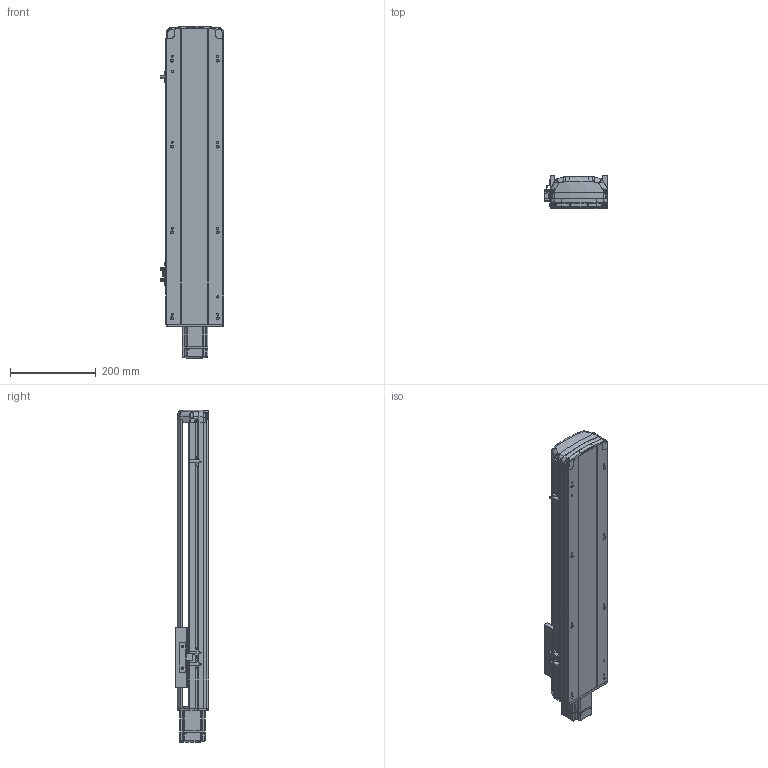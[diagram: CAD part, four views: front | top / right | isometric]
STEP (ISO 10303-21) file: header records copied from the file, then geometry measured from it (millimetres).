
FILE_DESCRIPTION (( 'STEP AP214' ), '1' );
FILE_NAME ('RTH14-XX-450-E-M20-C4.STEP', '2025-10-24T09:07:31', ( 'Microsoft' ), ( 'Microsoft' ), 'SwSTEP 2.0', 'SolidWorks 2018', '' );
FILE_SCHEMA (( 'AUTOMOTIVE_DESIGN' ));
Length unit declared in the file: millimetre
Products named in the file (9): N_RTH14-GY-001P^RTH14-XX-XX-E-M20-C4; N_RTH14-R-004-SFSR16賑釱^RTH14-XX-XX-E-M20-C4; N_RTH14-E-011P菁釱^RTH14-XX-XX-E-M20-C4; N_RTH13-L-012感应片（外置）^RTH14-XX-XX-E-M20-C4; N_MSMD022P1AA_200W^RTH14-XX-XX-E-M20-C4; N_OMRON EE-SX672 传感器^RTH14-XX-XX-E-M20-C4; N_RTH14-E-007P奻裔^RTH14-XX-XX-E-M20-C4; RTH14-XX-450-E-M20-C4; N_RTH13-E-008萇儂耜猾裔^RTH14-XX-XX-E-M20-C4
Assembly tree (10 placements, depth 2):
  RTH14-XX-450-E-M20-C4
    N_RTH14-E-011P菁釱^RTH14-XX-XX-E-M20-C4
    N_RTH14-E-007P奻裔^RTH14-XX-XX-E-M20-C4
    N_MSMD022P1AA_200W^RTH14-XX-XX-E-M20-C4
    N_RTH13-L-012感应片（外置）^RTH14-XX-XX-E-M20-C4
    N_OMRON EE-SX672 传感器^RTH14-XX-XX-E-M20-C4  x3
    N_RTH13-E-008萇儂耜猾裔^RTH14-XX-XX-E-M20-C4
    N_RTH14-R-004-SFSR16賑釱^RTH14-XX-XX-E-M20-C4
    N_RTH14-GY-001P^RTH14-XX-XX-E-M20-C4
Bounding box: 148.5 x 78.03 x 772.37 mm (x, y, z)
Volume: 3299235 mm3; surface area: 724115.7 mm2
Topology: 10 solids, 10 shells, 1853 faces, 5212 edges, 3424 vertices
Faces by surface type: plane 975, cylinder 488, bspline 341, cone 45, torus 4
Entity records: 56642 total; most frequent: CARTESIAN_POINT 22718, ORIENTED_EDGE 7492, DIRECTION 6017, EDGE_CURVE 3746, VERTEX_POINT 2460, VECTOR 2153, LINE 2153, AXIS2_PLACEMENT_3D 1932
